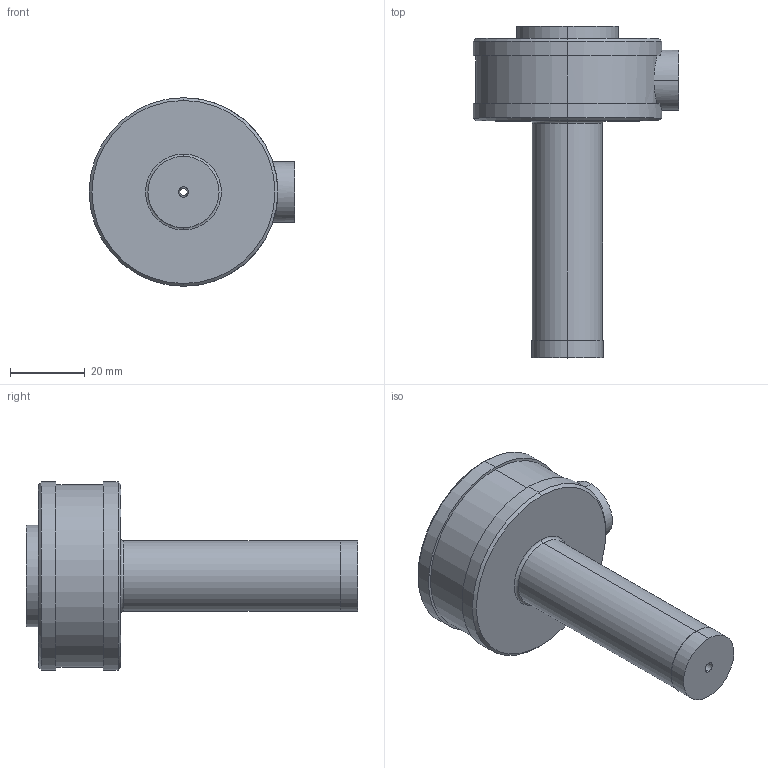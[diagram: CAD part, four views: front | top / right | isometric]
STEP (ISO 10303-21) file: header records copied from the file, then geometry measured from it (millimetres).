
FILE_DESCRIPTION (( 'STEP AP203' ), '1' );
FILE_NAME ('SB030017.STEP', '2009-05-05T18:27:35', ( 'Frank J. Eigler' ), ( 'DME' ), 'SwSTEP 2.0', 'SolidWorks 2009', '' );
FILE_SCHEMA (( 'CONFIG_CONTROL_DESIGN' ));
Length unit declared in the file: inch
Products named in the file (1): SB030017
Bounding box: 55.12 x 88.9 x 50.55 mm (x, y, z)
Volume: 61397.7 mm3; surface area: 13097.7 mm2
Topology: 1 solids, 1 shells, 37 faces, 92 edges, 58 vertices
Faces by surface type: cylinder 17, plane 8, cone 6, sphere 4, torus 2
Entity records: 1277 total; most frequent: CARTESIAN_POINT 278, DIRECTION 218, ORIENTED_EDGE 180, AXIS2_PLACEMENT_3D 96, EDGE_CURVE 90, CIRCLE 58, VERTEX_POINT 58, EDGE_LOOP 42
